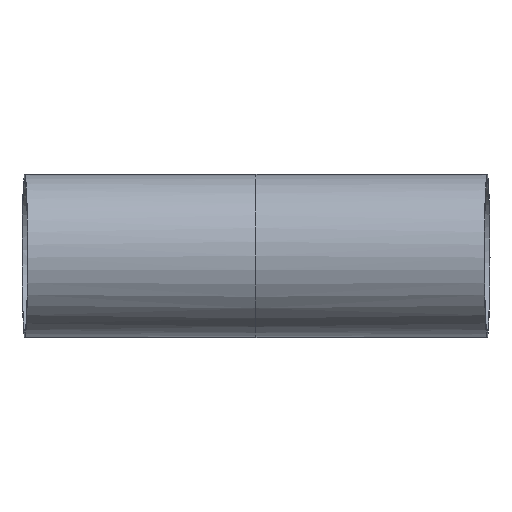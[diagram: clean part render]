
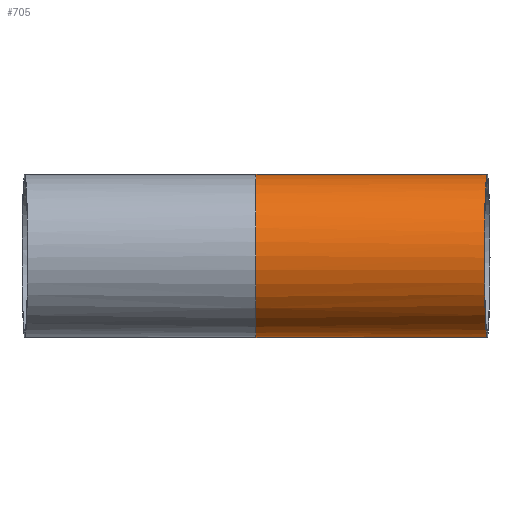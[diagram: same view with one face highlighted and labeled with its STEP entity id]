
A CAD part, front view. The second image highlights one B-rep face of the part: STEP entity #705.
In plain terms, the highlighted free-form (B-spline) face has degree [3, 1] with [4, 2] control points.
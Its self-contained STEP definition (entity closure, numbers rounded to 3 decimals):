
#64 = VERTEX_POINT ( 'NONE', #1652 ) ;
#101 = LINE ( 'NONE', #1404, #258 ) ;
#207 = CARTESIAN_POINT ( 'NONE',  ( 72.012, -2.515, 25.4 ) ) ;
#212 = CARTESIAN_POINT ( 'NONE',  ( 0., 0., -25.4 ) ) ;
#218 = CARTESIAN_POINT ( 'NONE',  ( 72.444, -2.53, -25.4 ) ) ;
#258 = VECTOR ( 'NONE', #1011, 1000. ) ;
#276 = CARTESIAN_POINT ( 'NONE',  ( 0., -50.8, -25.4 ) ) ;
#282 = CARTESIAN_POINT ( 'NONE',  ( 72.444, -53.33, -25.4 ) ) ;
#291 = CARTESIAN_POINT ( 'NONE',  ( 0., -50.8, 25.4 ) ) ;
#310 = EDGE_CURVE ( 'NONE', #1286, #318, #1635, .T. ) ;
#318 = VERTEX_POINT ( 'NONE', #207 ) ;
#319 = CARTESIAN_POINT ( 'NONE',  ( 0., 0., 25.4 ) ) ;
#373 = VERTEX_POINT ( 'NONE', #1569 ) ;
#448 = EDGE_CURVE ( 'NONE', #64, #373, #101, .T. ) ;
#496 = CARTESIAN_POINT ( 'NONE',  ( 72.012, -2.515, -25.4 ) ) ;
#502 = CARTESIAN_POINT ( 'NONE',  ( 71.982, -3.353, -25.4 ) ) ;
#507 = CARTESIAN_POINT ( 'NONE',  ( 71.953, -4.189, -25.359 ) ) ;
#513 = CARTESIAN_POINT ( 'NONE',  ( 71.895, -5.857, -25.193 ) ) ;
#519 = CARTESIAN_POINT ( 'NONE',  ( 71.866, -6.681, -25.069 ) ) ;
#522 = CARTESIAN_POINT ( 'NONE',  ( 71.781, -9.119, -24.58 ) ) ;
#531 = CARTESIAN_POINT ( 'NONE',  ( 71.726, -10.7, -24.099 ) ) ;
#537 = CARTESIAN_POINT ( 'NONE',  ( 71.645, -13.006, -23.141 ) ) ;
#572 = EDGE_CURVE ( 'NONE', #373, #1286, #1306, .T. ) ;
#580 = DIRECTION ( 'NONE',  ( 0., -1., 0. ) ) ;
#587 = DIRECTION ( 'NONE',  ( -1., 0., 0. ) ) ;
#595 = CARTESIAN_POINT ( 'NONE',  ( 0., 0., 0. ) ) ;
#615 = CARTESIAN_POINT ( 'NONE',  ( 71.619, -13.766, -22.78 ) ) ;
#618 = CARTESIAN_POINT ( 'NONE',  ( 71.567, -15.233, -21.993 ) ) ;
#622 = CARTESIAN_POINT ( 'NONE',  ( 71.543, -15.943, -21.566 ) ) ;
#627 = CARTESIAN_POINT ( 'NONE',  ( 71.495, -17.316, -20.645 ) ) ;
#631 = CARTESIAN_POINT ( 'NONE',  ( 71.472, -17.98, -20.152 ) ) ;
#641 = CARTESIAN_POINT ( 'NONE',  ( 71.427, -19.26, -19.099 ) ) ;
#647 = CARTESIAN_POINT ( 'NONE',  ( 71.405, -19.878, -18.538 ) ) ;
#649 = ORIENTED_EDGE ( 'NONE', *, *, #310, .F. ) ;
#657 = CARTESIAN_POINT ( 'NONE',  ( 71.343, -21.652, -16.758 ) ) ;
#658 = CARTESIAN_POINT ( 'NONE',  ( 72.444, -2.53, 25.4 ) ) ;
#663 = CARTESIAN_POINT ( 'NONE',  ( 71.307, -22.699, -15.475 ) ) ;
#670 = CARTESIAN_POINT ( 'NONE',  ( 71.259, -24.076, -13.411 ) ) ;
#678 = CARTESIAN_POINT ( 'NONE',  ( 71.244, -24.501, -12.699 ) ) ;
#681 = VECTOR ( 'NONE', #1168, 1000. ) ;
#705 = ADVANCED_FACE ( 'NONE', ( #1251 ), #1411, .F. ) ;
#759 = CARTESIAN_POINT ( 'NONE',  ( 71.216, -25.286, -11.227 ) ) ;
#761 = CARTESIAN_POINT ( 'NONE',  ( 71.204, -25.645, -10.466 ) ) ;
#768 = CARTESIAN_POINT ( 'NONE',  ( 71.171, -26.596, -8.16 ) ) ;
#773 = CARTESIAN_POINT ( 'NONE',  ( 71.154, -27.074, -6.577 ) ) ;
#779 = CARTESIAN_POINT ( 'NONE',  ( 71.14, -27.478, -4.542 ) ) ;
#783 = CARTESIAN_POINT ( 'NONE',  ( 71.137, -27.549, -4.132 ) ) ;
#788 = CARTESIAN_POINT ( 'NONE',  ( 71.133, -27.671, -3.306 ) ) ;
#793 = CARTESIAN_POINT ( 'NONE',  ( 71.131, -27.723, -2.889 ) ) ;
#798 = CARTESIAN_POINT ( 'NONE',  ( 71.127, -27.845, -1.641 ) ) ;
#803 = CARTESIAN_POINT ( 'NONE',  ( 71.126, -27.884, -0.811 ) ) ;
#809 = CARTESIAN_POINT ( 'NONE',  ( 71.126, -27.883, 1.673 ) ) ;
#816 = CARTESIAN_POINT ( 'NONE',  ( 71.131, -27.721, 3.32 ) ) ;
#819 = AXIS2_PLACEMENT_3D ( 'NONE', #595, #587, #580 ) ;
#824 = CARTESIAN_POINT ( 'NONE',  ( 71.146, -27.314, 5.368 ) ) ;
#881 = CARTESIAN_POINT ( 'NONE',  ( 72.444, -53.33, 25.4 ) ) ;
#897 = CARTESIAN_POINT ( 'NONE',  ( 71.149, -27.222, 5.778 ) ) ;
#900 = CARTESIAN_POINT ( 'NONE',  ( 71.156, -27.019, 6.589 ) ) ;
#903 = CARTESIAN_POINT ( 'NONE',  ( 71.16, -26.908, 6.99 ) ) ;
#907 = CARTESIAN_POINT ( 'NONE',  ( 71.172, -26.546, 8.182 ) ) ;
#921 = CARTESIAN_POINT ( 'NONE',  ( 71.192, -25.988, 9.74 ) ) ;
#926 = CARTESIAN_POINT ( 'NONE',  ( 71.217, -25.281, 11.237 ) ) ;
#937 = CARTESIAN_POINT ( 'NONE',  ( 71.237, -24.694, 12.337 ) ) ;
#945 = CARTESIAN_POINT ( 'NONE',  ( 71.244, -24.489, 12.7 ) ) ;
#954 = CARTESIAN_POINT ( 'NONE',  ( 71.259, -24.06, 13.417 ) ) ;
#963 = CARTESIAN_POINT ( 'NONE',  ( 71.267, -23.835, 13.772 ) ) ;
#986 = B_SPLINE_CURVE_WITH_KNOTS ( 'NONE', 3,
 ( #1184, #1190, #1179, #1174, #1171, #1099, #1089, #1082, #1075, #1068, #1065, #1060, #1052, #1045, #1040, #1037, #1032, #963, #954, #945, #937, #926, #921, #907, #903, #900, #897, #824, #816, #809, #803, #798, #793, #788, #783, #779, #773, #768, #761, #759, #678, #670, #663, #657, #647, #641, #631, #627, #622, #618, #615, #537, #531, #522, #519, #513, #507, #502, #496 ),
 .UNSPECIFIED., .F., .F.,
 ( 4, 2, 2, 2, 2, 2, 2, 2, 2, 2, 2, 1, 2, 2, 2, 2, 2, 2, 2, 2, 2, 2, 2, 2, 2, 2, 2, 2, 2, 4 ),
 ( 0., 0.005, 0.007, 0.01, 0.015, 0.016, 0.017, 0.02, 0.025, 0.026, 0.027, 0.03, 0.032, 0.033, 0.035, 0.04, 0.042, 0.043, 0.045, 0.05, 0.052, 0.055, 0.06, 0.062, 0.064, 0.067, 0.069, 0.074, 0.077, 0.079 ),
 .UNSPECIFIED. ) ;
#1011 = DIRECTION ( 'NONE',  ( -0.999, 0.035, 0. ) ) ;
#1032 = CARTESIAN_POINT ( 'NONE',  ( 71.307, -22.676, 15.507 ) ) ;
#1037 = CARTESIAN_POINT ( 'NONE',  ( 71.344, -21.626, 16.786 ) ) ;
#1040 = CARTESIAN_POINT ( 'NONE',  ( 71.405, -19.872, 18.543 ) ) ;
#1042 = EDGE_CURVE ( 'NONE', #318, #64, #986, .T. ) ;
#1045 = CARTESIAN_POINT ( 'NONE',  ( 71.427, -19.256, 19.102 ) ) ;
#1052 = CARTESIAN_POINT ( 'NONE',  ( 71.461, -18.287, 19.899 ) ) ;
#1060 = CARTESIAN_POINT ( 'NONE',  ( 71.472, -17.956, 20.157 ) ) ;
#1065 = CARTESIAN_POINT ( 'NONE',  ( 71.496, -17.287, 20.654 ) ) ;
#1068 = CARTESIAN_POINT ( 'NONE',  ( 71.508, -16.947, 20.893 ) ) ;
#1075 = CARTESIAN_POINT ( 'NONE',  ( 71.568, -15.223, 22.046 ) ) ;
#1082 = CARTESIAN_POINT ( 'NONE',  ( 71.619, -13.766, 22.826 ) ) ;
#1089 = CARTESIAN_POINT ( 'NONE',  ( 71.699, -11.462, 23.783 ) ) ;
#1099 = CARTESIAN_POINT ( 'NONE',  ( 71.727, -10.67, 24.066 ) ) ;
#1168 = DIRECTION ( 'NONE',  ( 0.999, -0.035, 0. ) ) ;
#1171 = CARTESIAN_POINT ( 'NONE',  ( 71.782, -9.076, 24.55 ) ) ;
#1174 = CARTESIAN_POINT ( 'NONE',  ( 71.811, -8.272, 24.751 ) ) ;
#1178 = ORIENTED_EDGE ( 'NONE', *, *, #448, .F. ) ;
#1179 = CARTESIAN_POINT ( 'NONE',  ( 71.895, -5.839, 25.235 ) ) ;
#1184 = CARTESIAN_POINT ( 'NONE',  ( 72.012, -2.515, 25.4 ) ) ;
#1190 = CARTESIAN_POINT ( 'NONE',  ( 71.953, -4.191, 25.4 ) ) ;
#1246 = CARTESIAN_POINT ( 'NONE',  ( 36.222, -1.265, 25.4 ) ) ;
#1251 = FACE_OUTER_BOUND ( 'NONE', #1545, .T. ) ;
#1286 = VERTEX_POINT ( 'NONE', #1347 ) ;
#1306 = CIRCLE ( 'NONE', #819, 25.4 ) ;
#1347 = CARTESIAN_POINT ( 'NONE',  ( 0., 0., 25.4 ) ) ;
#1404 = CARTESIAN_POINT ( 'NONE',  ( 36.222, -1.265, -25.4 ) ) ;
#1411 =( BOUNDED_SURFACE ( )  B_SPLINE_SURFACE ( 3, 1, ( 
 ( #658, #319 ),
 ( #881, #291 ),
 ( #282, #276 ),
 ( #218, #212 ) ),
 .UNSPECIFIED., .F., .F., .T. ) 
 B_SPLINE_SURFACE_WITH_KNOTS ( ( 4, 4 ),
 ( 2, 2 ),
 ( 0., 1. ),
 ( 0., 1. ),
 .UNSPECIFIED. ) 
 GEOMETRIC_REPRESENTATION_ITEM ( )  RATIONAL_B_SPLINE_SURFACE ( (
 ( 1., 1.),
 ( 0.333, 0.333),
 ( 0.333, 0.333),
 ( 1., 1.) ) ) 
 REPRESENTATION_ITEM ( '' )  SURFACE ( )  );
#1545 = EDGE_LOOP ( 'NONE', ( #649, #1724, #1178, #1705 ) ) ;
#1569 = CARTESIAN_POINT ( 'NONE',  ( 0., 0., -25.4 ) ) ;
#1635 = LINE ( 'NONE', #1246, #681 ) ;
#1652 = CARTESIAN_POINT ( 'NONE',  ( 72.012, -2.515, -25.4 ) ) ;
#1705 = ORIENTED_EDGE ( 'NONE', *, *, #1042, .F. ) ;
#1724 = ORIENTED_EDGE ( 'NONE', *, *, #572, .F. ) ;
